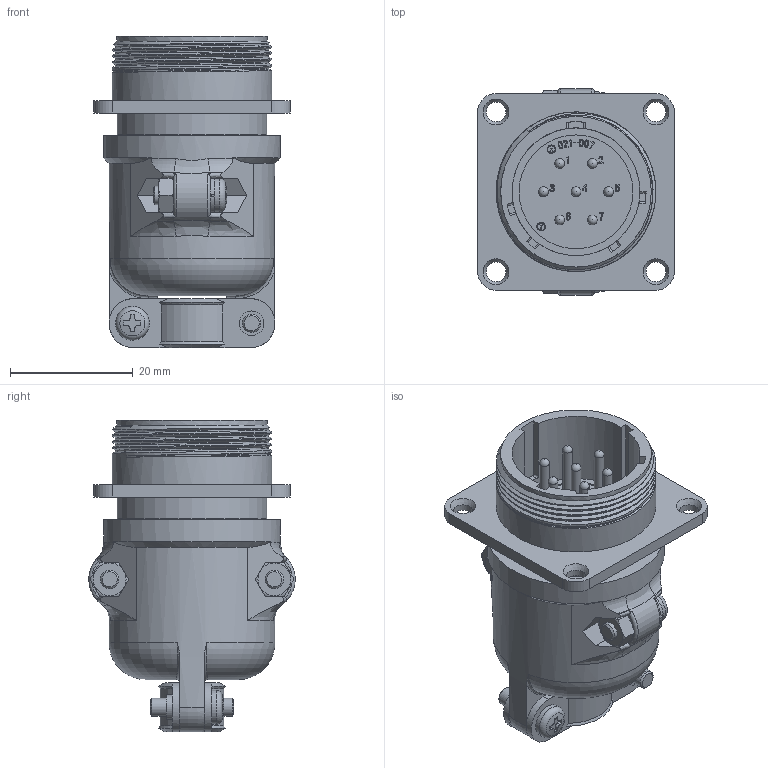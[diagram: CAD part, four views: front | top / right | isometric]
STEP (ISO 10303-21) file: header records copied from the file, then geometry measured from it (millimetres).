
FILE_DESCRIPTION (( 'STEP AP203' ), '1' );
FILE_NAME ('JMWR2107M-D.STEP', '2021-06-25T09:09:35', ( '' ), ( '' ), 'SwSTEP 2.0', 'SolidWorks 2018', '' );
FILE_SCHEMA (( 'CONFIG_CONTROL_DESIGN' ));
Length unit declared in the file: millimetre
Products named in the file (1): JMWR2107M-D
Bounding box: 32 x 33.57 x 50.7 mm (x, y, z)
Volume: 13281.7 mm3; surface area: 11753.2 mm2
Topology: 1 solids, 5 shells, 933 faces, 2531 edges, 1662 vertices
Faces by surface type: plane 440, bspline 259, cylinder 152, torus 36, cone 35, sphere 11
Full cylindrical faces by diameter (mm): 1.2 x3, 1.4 x3, 1.6 x7, 1.7 x7, 2.4 x11, 3 x8, 3.2 x4, 3.3 x2, 3.5 x2, 4 x2, 5.5 x2, 12 x1, 18.1 x1, 18.5 x1, 20.6 x1, 20.8 x1, 22.8 x1, 23 x1, 24.3 x1, 24.5 x1, 25.96 x4, 27 x1, 28.8 x1
Entity records: 39073 total; most frequent: CARTESIAN_POINT 18126, ORIENTED_EDGE 4746, DIRECTION 3415, EDGE_CURVE 2373, VERTEX_POINT 1605, VECTOR 1251, LINE 1251, EDGE_LOOP 1098
